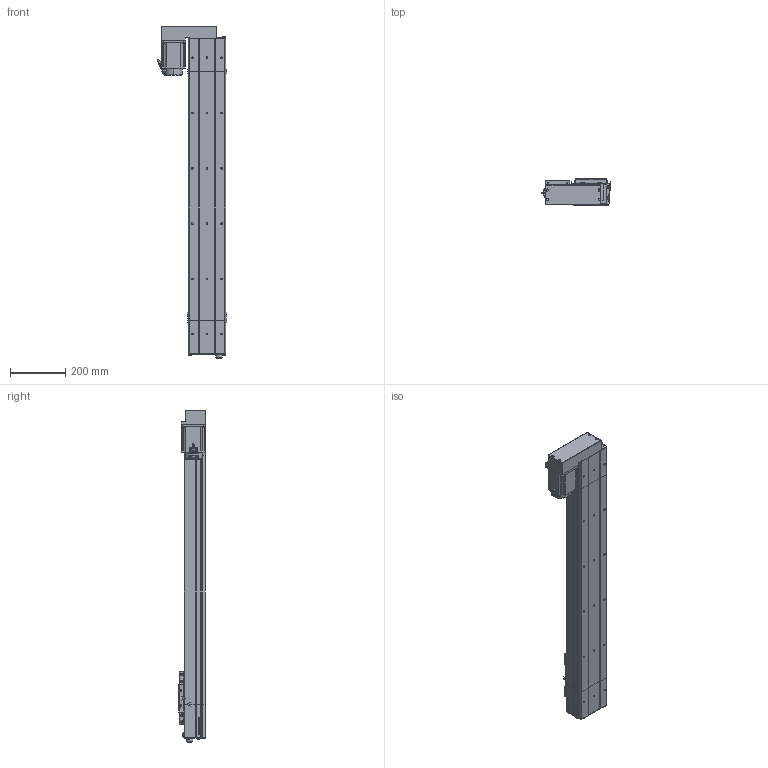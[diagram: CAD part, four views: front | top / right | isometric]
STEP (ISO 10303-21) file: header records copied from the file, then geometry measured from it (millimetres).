
FILE_DESCRIPTION (( 'STEP AP214' ), '1' );
FILE_NAME ('D14 CSH BR S900.STEP', '2010-06-29T15:22:13', ( 'Conseil Régional Haute-Normandie' ), ( 'Conseil Régional Haute-Normandie' ), 'SwSTEP 2.0', 'SolidWorks 2010', '' );
FILE_SCHEMA (( 'AUTOMOTIVE_DESIGN' ));
Length unit declared in the file: millimetre
Products named in the file (26): corps GMB 90 100 310; couvercle head d14; corps  CSH 900; GMB 90 100 310; corps head d14; avant GMB 90 100 310; plaque de bout head d14 BR; Conecteur2_Default; codeur GMB 90 100 310; course CSH S900; vis CHC M5.5; Conecteur_Default; corps tail d14; Tail D14; vis CHC M7; chariot supérieur D14; couvercle CSH course S900; charriot inférieur D14; chariot D14; couvercle tail; Vis CHC M8; plaque de maintient D14; plaque de bout tail d14; vis CHC M5; Head D14  CSH BR; D14 CSH BR S900
Assembly tree (48 placements, depth 4):
  D14 CSH BR S900
    Head D14  CSH BR
      couvercle head d14
      GMB 90 100 310
        Conecteur2_Default
        avant GMB 90 100 310
        corps GMB 90 100 310
        codeur GMB 90 100 310
        Conecteur_Default
      Vis CHC M8  x2
      corps head d14
      plaque de maintient D14
      vis CHC M7  x2
      vis CHC M5.5  x4
      plaque de bout head d14 BR
    course CSH S900
      couvercle CSH course S900
      corps  CSH 900
    chariot D14
      vis CHC M7  x8
      vis CHC M5  x4
      charriot inférieur D14
      chariot supérieur D14
    Tail D14
      couvercle tail
      plaque de bout tail d14
      vis CHC M7  x4
      corps tail d14
      Vis CHC M8  x2
      plaque de maintient D14
Bounding box: 250.75 x 95.75 x 1201.3 mm (x, y, z)
Volume: 4487322.4 mm3; surface area: 1293976.6 mm2
Topology: 49 solids, 49 shells, 2444 faces, 6287 edges, 4142 vertices
Faces by surface type: plane 1375, bspline 538, cylinder 418, torus 61, cone 52
Entity records: 107552 total; most frequent: CARTESIAN_POINT 57987, ORIENTED_EDGE 10826, DIRECTION 8096, EDGE_CURVE 5413, LINE 3642, VECTOR 3642, VERTEX_POINT 3590, EDGE_LOOP 2311
